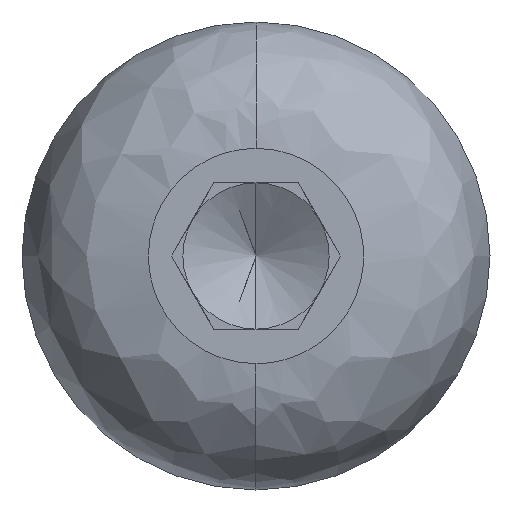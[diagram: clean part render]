
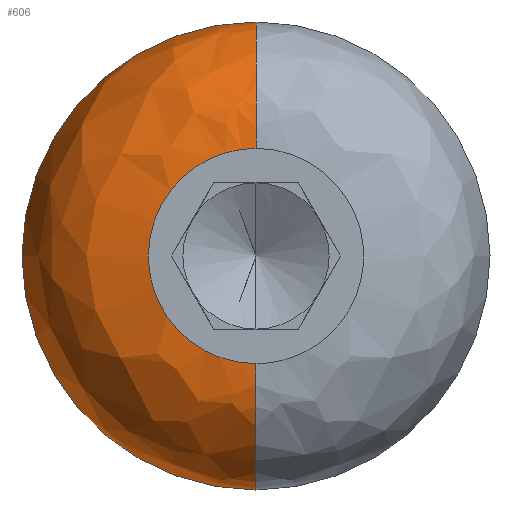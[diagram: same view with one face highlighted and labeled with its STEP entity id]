
A CAD part, left-side view. The second image highlights one B-rep face of the part: STEP entity #606.
In plain terms, the highlighted free-form (B-spline) face has degree [3, 3] with [4, 4] control points.
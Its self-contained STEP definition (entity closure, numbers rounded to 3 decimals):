
#3 = CARTESIAN_POINT ( 'NONE',  ( 0., 0., 3.68 ) ) ;
#19 = ORIENTED_EDGE ( 'NONE', *, *, #183, .F. ) ;
#40 = CARTESIAN_POINT ( 'NONE',  ( 0., 3.68, 0. ) ) ;
#50 = CARTESIAN_POINT ( 'NONE',  ( 0., 7.36, -3.68 ) ) ;
#52 = ORIENTED_EDGE ( 'NONE', *, *, #260, .T. ) ;
#55 = CARTESIAN_POINT ( 'NONE',  ( 4.32, 0., -8. ) ) ;
#56 = CARTESIAN_POINT ( 'NONE',  ( 4.32, 0., 0. ) ) ;
#66 = DIRECTION ( 'NONE',  ( 0., 1., 0. ) ) ;
#68 = VERTEX_POINT ( 'NONE', #428 ) ;
#72 = AXIS2_PLACEMENT_3D ( 'NONE', #246, #690, #82 ) ;
#82 = DIRECTION ( 'NONE',  ( 0., 0., -1. ) ) ;
#106 = CARTESIAN_POINT ( 'NONE',  ( 0., 0., 6.211 ) ) ;
#108 = DIRECTION ( 'NONE',  ( 0., 0., 1. ) ) ;
#124 = VERTEX_POINT ( 'NONE', #769 ) ;
#139 = CARTESIAN_POINT ( 'NONE',  ( 0., 0., -3.68 ) ) ;
#143 = CARTESIAN_POINT ( 'NONE',  ( 0., 2.156, -3.68 ) ) ;
#154 = CARTESIAN_POINT ( 'NONE',  ( 0., 12.421, -6.211 ) ) ;
#164 = ORIENTED_EDGE ( 'NONE', *, *, #701, .T. ) ;
#183 = EDGE_CURVE ( 'NONE', #712, #470, #522, .T. ) ;
#215 = CARTESIAN_POINT ( 'NONE',  ( 1.789, 0., 8. ) ) ;
#234 = CARTESIAN_POINT ( 'NONE',  ( 0., 3.68, 2.156 ) ) ;
#246 = CARTESIAN_POINT ( 'NONE',  ( 4.32, 0., -3.68 ) ) ;
#258 =( BOUNDED_SURFACE ( )  B_SPLINE_SURFACE ( 3, 3, ( 
 ( #583, #771, #50, #461 ),
 ( #106, #523, #154, #585 ),
 ( #215, #653, #273, #714 ),
 ( #336, #778, #404, #55 ) ),
 .UNSPECIFIED., .F., .F., .T. ) 
 B_SPLINE_SURFACE_WITH_KNOTS ( ( 4, 4 ),
 ( 4, 4 ),
 ( 0., 1. ),
 ( 0., 1. ),
 .UNSPECIFIED. ) 
 GEOMETRIC_REPRESENTATION_ITEM ( )  RATIONAL_B_SPLINE_SURFACE ( (
 ( 1., 0.333, 0.333, 1.),
 ( 0.805, 0.268, 0.268, 0.805),
 ( 0.805, 0.268, 0.268, 0.805),
 ( 1., 0.333, 0.333, 1.) ) ) 
 REPRESENTATION_ITEM ( '' )  SURFACE ( )  );
#260 = EDGE_CURVE ( 'NONE', #712, #68, #779, .T. ) ;
#268 = ORIENTED_EDGE ( 'NONE', *, *, #288, .T. ) ;
#273 = CARTESIAN_POINT ( 'NONE',  ( 1.789, 16., -8. ) ) ;
#288 = EDGE_CURVE ( 'NONE', #68, #709, #482, .T. ) ;
#310 = FACE_OUTER_BOUND ( 'NONE', #338, .T. ) ;
#331 = CIRCLE ( 'NONE', #550, 8. ) ;
#336 = CARTESIAN_POINT ( 'NONE',  ( 4.32, 0., 8. ) ) ;
#338 = EDGE_LOOP ( 'NONE', ( #19, #52, #268, #164, #687 ) ) ;
#361 = CARTESIAN_POINT ( 'NONE',  ( 0., 0., 3.68 ) ) ;
#404 = CARTESIAN_POINT ( 'NONE',  ( 4.32, 16., -8. ) ) ;
#419 = CARTESIAN_POINT ( 'NONE',  ( 4.32, 0., 3.68 ) ) ;
#427 = AXIS2_PLACEMENT_3D ( 'NONE', #419, #66, #476 ) ;
#428 = CARTESIAN_POINT ( 'NONE',  ( 0., 3.68, 0. ) ) ;
#461 = CARTESIAN_POINT ( 'NONE',  ( 0., 0., -3.68 ) ) ;
#465 = DIRECTION ( 'NONE',  ( 1., 0., 0. ) ) ;
#470 = VERTEX_POINT ( 'NONE', #758 ) ;
#476 = DIRECTION ( 'NONE',  ( 0., 0., 1. ) ) ;
#482 =( BOUNDED_CURVE ( )  B_SPLINE_CURVE ( 3, ( #40, #234, #736, #361 ),
 .UNSPECIFIED., .F., .F. ) 
 B_SPLINE_CURVE_WITH_KNOTS ( ( 4, 4 ),
 ( 0., 1. ),
 .UNSPECIFIED. ) 
 CURVE ( )  GEOMETRIC_REPRESENTATION_ITEM ( )  RATIONAL_B_SPLINE_CURVE ( ( 1., 0.805, 0.805, 1. ) ) 
 REPRESENTATION_ITEM ( '' )  );
#522 = CIRCLE ( 'NONE', #72, 4.32 ) ;
#523 = CARTESIAN_POINT ( 'NONE',  ( 0., 12.421, 6.211 ) ) ;
#550 = AXIS2_PLACEMENT_3D ( 'NONE', #56, #465, #108 ) ;
#583 = CARTESIAN_POINT ( 'NONE',  ( 0., 0., 3.68 ) ) ;
#585 = CARTESIAN_POINT ( 'NONE',  ( 0., 0., -6.211 ) ) ;
#596 = CARTESIAN_POINT ( 'NONE',  ( 0., 0., -3.68 ) ) ;
#606 = ADVANCED_FACE ( 'NONE', ( #310 ), #258, .T. ) ;
#614 = EDGE_CURVE ( 'NONE', #470, #124, #331, .T. ) ;
#640 = CARTESIAN_POINT ( 'NONE',  ( 0., 3.68, 0. ) ) ;
#653 = CARTESIAN_POINT ( 'NONE',  ( 1.789, 16., 8. ) ) ;
#687 = ORIENTED_EDGE ( 'NONE', *, *, #614, .F. ) ;
#690 = DIRECTION ( 'NONE',  ( 0., -1., 0. ) ) ;
#695 = CIRCLE ( 'NONE', #427, 4.32 ) ;
#700 = CARTESIAN_POINT ( 'NONE',  ( 0., 3.68, -2.156 ) ) ;
#701 = EDGE_CURVE ( 'NONE', #709, #124, #695, .T. ) ;
#709 = VERTEX_POINT ( 'NONE', #3 ) ;
#712 = VERTEX_POINT ( 'NONE', #596 ) ;
#714 = CARTESIAN_POINT ( 'NONE',  ( 1.789, 0., -8. ) ) ;
#736 = CARTESIAN_POINT ( 'NONE',  ( 0., 2.156, 3.68 ) ) ;
#758 = CARTESIAN_POINT ( 'NONE',  ( 4.32, 0., -8. ) ) ;
#769 = CARTESIAN_POINT ( 'NONE',  ( 4.32, 0., 8. ) ) ;
#771 = CARTESIAN_POINT ( 'NONE',  ( 0., 7.36, 3.68 ) ) ;
#778 = CARTESIAN_POINT ( 'NONE',  ( 4.32, 16., 8. ) ) ;
#779 =( BOUNDED_CURVE ( )  B_SPLINE_CURVE ( 3, ( #139, #143, #700, #640 ),
 .UNSPECIFIED., .F., .F. ) 
 B_SPLINE_CURVE_WITH_KNOTS ( ( 4, 4 ),
 ( 0., 1. ),
 .UNSPECIFIED. ) 
 CURVE ( )  GEOMETRIC_REPRESENTATION_ITEM ( )  RATIONAL_B_SPLINE_CURVE ( ( 1., 0.805, 0.805, 1. ) ) 
 REPRESENTATION_ITEM ( '' )  );
